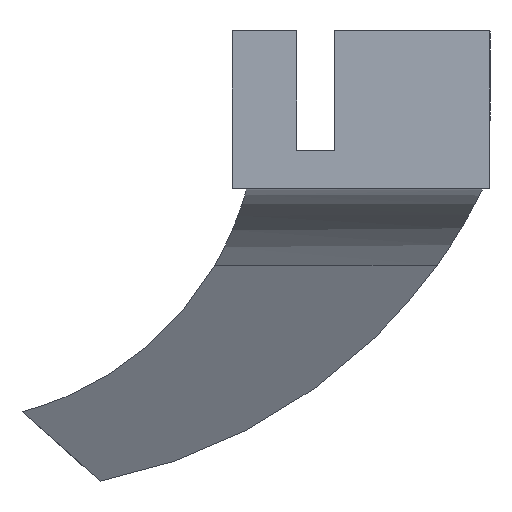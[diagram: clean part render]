
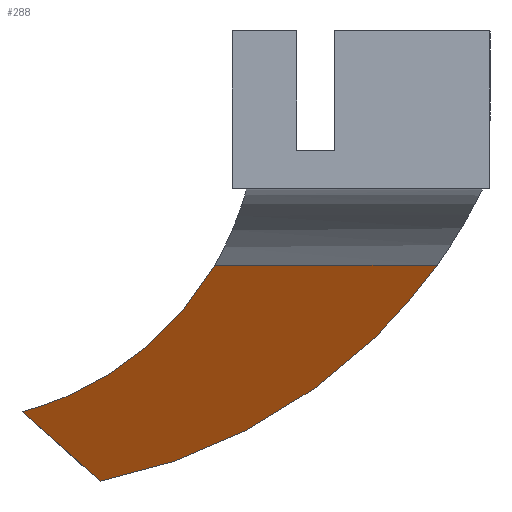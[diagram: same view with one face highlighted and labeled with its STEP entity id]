
A CAD part, front view. The second image highlights one B-rep face of the part: STEP entity #288.
In plain terms, the highlighted planar face has unit normal (0, -0.886, -0.463).
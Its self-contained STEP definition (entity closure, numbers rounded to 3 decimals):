
#288=ADVANCED_FACE('',(#641),#643,.F.);
#641=FACE_BOUND('',#642,.T.);
#642=EDGE_LOOP('',(#958,#959,#960,#961));
#643=PLANE('',#644);
#644=AXIS2_PLACEMENT_3D('',#645,#646,#647);
#645=CARTESIAN_POINT('',(4.006,6.8,-67.328));
#646=DIRECTION('',(0.,0.886,0.463));
#647=DIRECTION('',(0.,-0.463,0.886));
#958=ORIENTED_EDGE('',*,*,#1136,.F.);
#959=ORIENTED_EDGE('',*,*,#1093,.F.);
#960=ORIENTED_EDGE('',*,*,#1146,.F.);
#961=ORIENTED_EDGE('',*,*,#1138,.F.);
#1093=EDGE_CURVE('',#1251,#1253,#1254,.F.);
#1136=EDGE_CURVE('',#1253,#1325,#1326,.T.);
#1138=EDGE_CURVE('',#1325,#1328,#1329,.F.);
#1146=EDGE_CURVE('',#1328,#1251,#1339,.F.);
#1251=VERTEX_POINT('',#1559);
#1253=VERTEX_POINT('',#1563);
#1254=(BOUNDED_CURVE()B_SPLINE_CURVE(3,
(#1564,#1565,#1566,#1567),
.UNSPECIFIED.,.F.,.F.)B_SPLINE_CURVE_WITH_KNOTS((4,4),
(0.,1.),
.UNSPECIFIED.)CURVE()GEOMETRIC_REPRESENTATION_ITEM()RATIONAL_B_SPLINE_CURVE((1.,
0.949,0.949,1.))REPRESENTATION_ITEM(''));
#1325=VERTEX_POINT('',#1775);
#1326=LINE('',#1776,#1777);
#1328=VERTEX_POINT('',#1826);
#1329=(BOUNDED_CURVE()B_SPLINE_CURVE(3,
(#1827,#1828,#1829,#1830),
.UNSPECIFIED.,.F.,.F.)B_SPLINE_CURVE_WITH_KNOTS((4,4),
(0.,1.),
.UNSPECIFIED.)CURVE()GEOMETRIC_REPRESENTATION_ITEM()RATIONAL_B_SPLINE_CURVE((1.,
0.952,0.952,1.))REPRESENTATION_ITEM(''));
#1339=LINE('',#1899,#1900);
#1559=CARTESIAN_POINT('',(10.188,4.919,-63.727));
#1563=CARTESIAN_POINT('',(18.267,1.707,-57.579));
#1564=CARTESIAN_POINT('',(18.267,1.707,-57.579));
#1565=CARTESIAN_POINT('',(16.478,3.319,-60.665));
#1566=CARTESIAN_POINT('',(13.639,4.447,-62.825));
#1567=CARTESIAN_POINT('',(10.188,4.919,-63.727));
#1775=CARTESIAN_POINT('',(27.588,1.707,-57.579));
#1776=CARTESIAN_POINT('',(18.267,1.707,-57.579));
#1777=VECTOR('',#1778,1.);
#1778=DIRECTION('',(1.,0.,0.));
#1826=CARTESIAN_POINT('',(13.459,6.438,-66.635));
#1827=CARTESIAN_POINT('',(13.459,6.438,-66.635));
#1828=CARTESIAN_POINT('',(19.227,5.858,-65.525));
#1829=CARTESIAN_POINT('',(24.171,4.202,-62.356));
#1830=CARTESIAN_POINT('',(27.588,1.707,-57.579));
#1899=CARTESIAN_POINT('',(10.188,4.919,-63.727));
#1900=VECTOR('',#1901,1.);
#1901=DIRECTION('',(0.706,0.328,-0.628));
